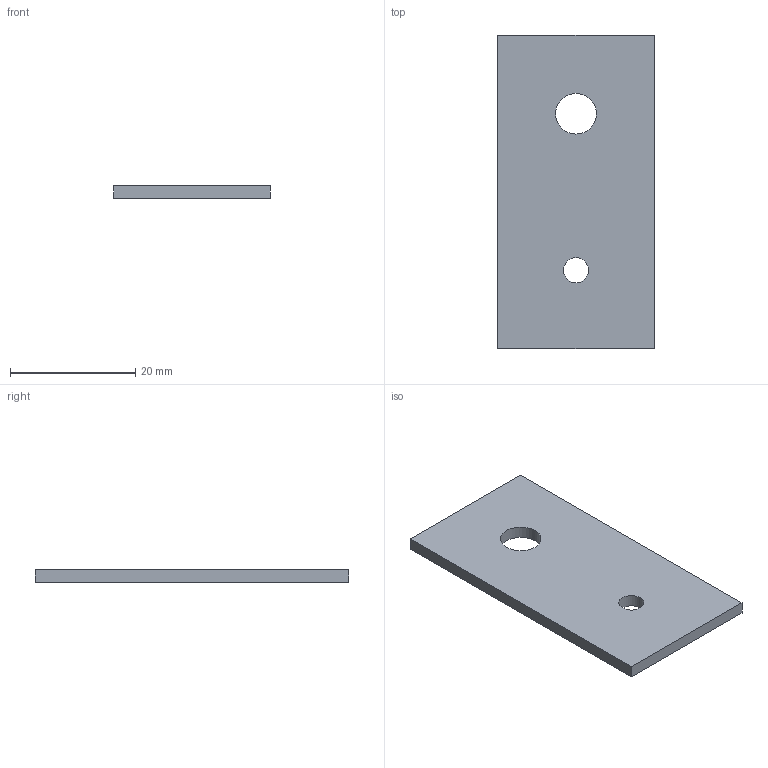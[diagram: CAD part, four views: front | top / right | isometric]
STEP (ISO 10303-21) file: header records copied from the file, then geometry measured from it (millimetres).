
FILE_DESCRIPTION(('HOOPS Exchange Step'),'2;1');
FILE_NAME('C:\Users\ZakSawa\AppData\Local\Temp\Alibre Design\export-A15DBD76-457D-478E-9491-668257831934.stp','2019-08-02T19:49:41+09:00',('ZakSawa'),('Alibre'),'HOOPS Exchange 2019.2','Alibre','Unknown authorisation');
FILE_SCHEMA( ('AP203_CONFIGURATION_CONTROLLED_3D_DESIGN_OF_MECHANICAL_PARTS_AND_ASSEMBLIES_MIM_LF') );
Length unit declared in the file: millimetre
Products named in the file (1): BatteryHolderMainFrameHanger
Bounding box: 25 x 50 x 2 mm (x, y, z)
Volume: 2408.5 mm3; surface area: 2774.5 mm2
Topology: 1 solids, 1 shells, 8 faces, 22 edges, 16 vertices
Faces by surface type: plane 6, cylinder 2
Full cylindrical faces by diameter (mm): 4 x1, 6.5 x1
Entity records: 299 total; most frequent: DIRECTION 48, CARTESIAN_POINT 47, ORIENTED_EDGE 44, EDGE_CURVE 22, AXIS2_PLACEMENT_3D 17, VERTEX_POINT 16, VECTOR 14, LINE 14
